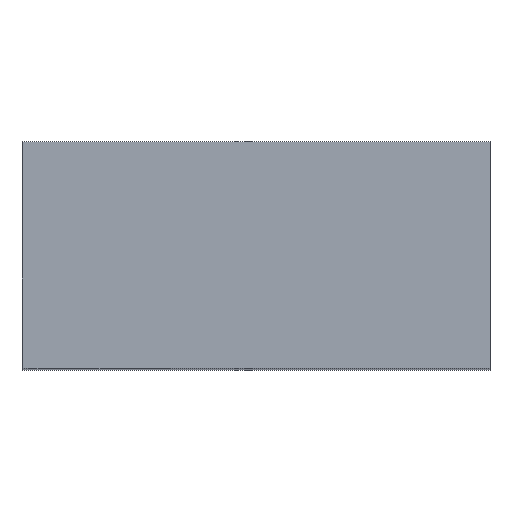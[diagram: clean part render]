
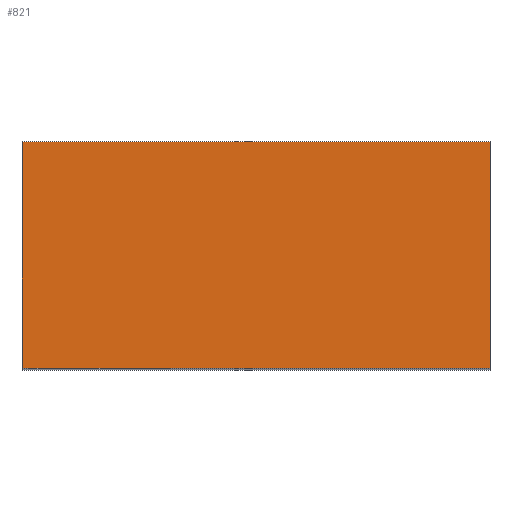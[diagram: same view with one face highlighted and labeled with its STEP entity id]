
A CAD part, top view. The second image highlights one B-rep face of the part: STEP entity #821.
In plain terms, the highlighted planar face has unit normal (0, 0, 1).
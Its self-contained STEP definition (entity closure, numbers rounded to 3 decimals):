
#251=CARTESIAN_POINT('Vertex',(-30.,-20.,18.)) ;
#267=CARTESIAN_POINT('Vertex',(30.,-20.,18.)) ;
#270=CARTESIAN_POINT('Line Origine',(0.,-20.,18.)) ;
#417=CARTESIAN_POINT('Vertex',(-30.,9.,18.)) ;
#444=CARTESIAN_POINT('Line Origine',(-30.,-5.5,18.)) ;
#541=CARTESIAN_POINT('Vertex',(30.,9.,18.)) ;
#544=CARTESIAN_POINT('Line Origine',(30.,-5.5,18.)) ;
#805=CARTESIAN_POINT('Axis2P3D Location',(30.,-20.,18.)) ;
#810=CARTESIAN_POINT('Line Origine',(0.,9.,18.)) ;
#271=DIRECTION('Vector Direction',(-1.,0.,0.)) ;
#445=DIRECTION('Vector Direction',(0.,-1.,0.)) ;
#545=DIRECTION('Vector Direction',(0.,-1.,0.)) ;
#806=DIRECTION('Axis2P3D Direction',(0.,0.,-1.)) ;
#807=DIRECTION('Axis2P3D XDirection',(0.,1.,0.)) ;
#811=DIRECTION('Vector Direction',(-1.,0.,0.)) ;
#808=AXIS2_PLACEMENT_3D('Plane Axis2P3D',#805,#806,#807) ;
#816=ORIENTED_EDGE('',*,*,#448,.T.) ;
#817=ORIENTED_EDGE('',*,*,#274,.F.) ;
#818=ORIENTED_EDGE('',*,*,#548,.F.) ;
#819=ORIENTED_EDGE('',*,*,#814,.T.) ;
#272=VECTOR('Line Direction',#271,1.) ;
#446=VECTOR('Line Direction',#445,1.) ;
#546=VECTOR('Line Direction',#545,1.) ;
#812=VECTOR('Line Direction',#811,1.) ;
#821=ADVANCED_FACE('Smusso1',(#820),#809,.F.) ;
#274=EDGE_CURVE('',#268,#252,#273,.T.) ;
#448=EDGE_CURVE('',#418,#252,#447,.T.) ;
#548=EDGE_CURVE('',#542,#268,#547,.T.) ;
#814=EDGE_CURVE('',#542,#418,#813,.T.) ;
#815=EDGE_LOOP('',(#816,#817,#818,#819)) ;
#820=FACE_OUTER_BOUND('',#815,.T.) ;
#273=LINE('Line',#270,#272) ;
#447=LINE('Line',#444,#446) ;
#547=LINE('Line',#544,#546) ;
#813=LINE('Line',#810,#812) ;
#809=PLANE('Plane',#808) ;
#252=VERTEX_POINT('',#251) ;
#268=VERTEX_POINT('',#267) ;
#418=VERTEX_POINT('',#417) ;
#542=VERTEX_POINT('',#541) ;
